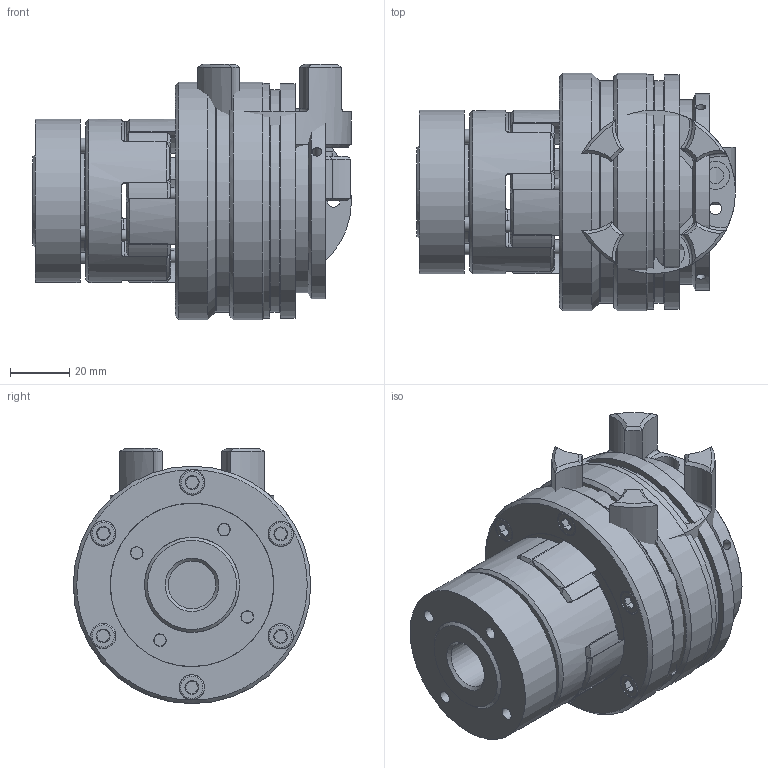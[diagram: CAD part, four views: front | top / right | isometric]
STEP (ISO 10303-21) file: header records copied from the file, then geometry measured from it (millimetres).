
FILE_DESCRIPTION( ( 'Unknown' ), '1' );
FILE_NAME( 'C:/Dokumente und Einstellungen/Sven/Desktop/hp kbk/E-AP/KBK EAP-24-85.stp', 'Unknown', ( 'Unknown' ), ( 'Unknown' ), 'XStep 1.0', 'Unknown', ' ' );
FILE_SCHEMA( ( 'automotive_design' ) );
Length unit declared in the file: millimetre
Products named in the file (15): Assem1; Assem2; ball_bearing_-_6007_0_01_0; ball_bearing_-_6007_0_02_0; ball_bearing_-_6007_0_03_0; KBK L-P-60 Grundkörper_0; Stellring 60_0; Druckring 60_0; Flansch 60_0; a_35_0; Elastomerflansch 24_0; Zahnkranz_24_Standard_0; ISO EN DIN 4762_M5x20_0; KBE 3 - 24_Nabe; KBE3-24_Druckring_0
Bounding box: 107.4 x 80 x 86 mm (x, y, z)
Volume: 562977.8 mm3; surface area: 238995.2 mm2
Topology: 38 solids, 38 shells, 996 faces, 2144 edges, 1300 vertices
Faces by surface type: cone 319, cylinder 314, plane 288, torus 75
Full cylindrical faces by diameter (mm): 2.5 x4, 3.242 x6, 4 x22, 4.134 x12, 4.2 x12, 5 x11, 5.2 x12, 5.5 x8, 8.5 x23, 9.5 x8, 16 x2, 27 x4, 30 x4, 33 x2, 34.625 x2, 35 x7, 43.7 x6, 44 x2, 46 x4, 46.5 x2, 53.6 x6, 55 x6, 61.3 x2, 62 x7, 66 x2, 75 x4, 79 x2, 80 x2
Entity records: 11132 total; most frequent: CARTESIAN_POINT 2511, DIRECTION 1880, ORIENTED_EDGE 1454, AXIS2_PLACEMENT_3D 882, EDGE_CURVE 727, EDGE_LOOP 602, VERTEX_POINT 505, FACE_OUTER_BOUND 486
